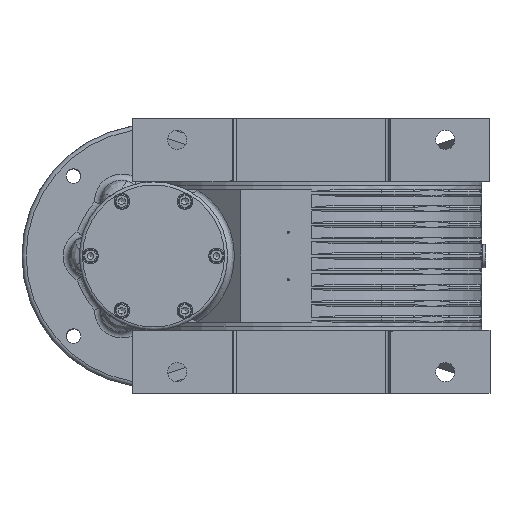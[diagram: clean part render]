
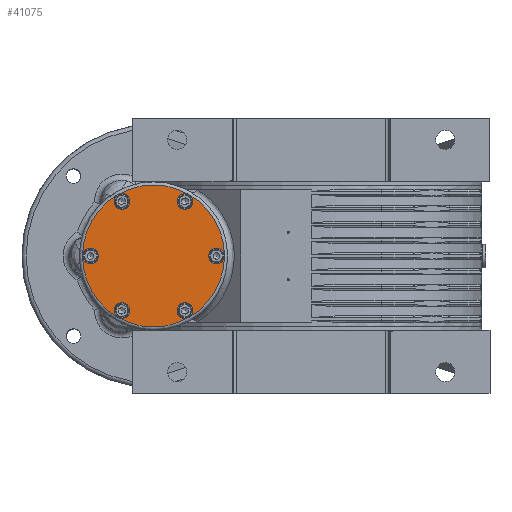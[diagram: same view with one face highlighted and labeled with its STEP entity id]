
A CAD part, left-side view. The second image highlights one B-rep face of the part: STEP entity #41075.
In plain terms, the highlighted planar face has unit normal (-1, 0, 0).
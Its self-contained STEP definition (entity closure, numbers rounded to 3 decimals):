
#40978=CARTESIAN_POINT('',(0.0,67.5,0.0));
#40979=VERTEX_POINT('',#40978);
#40980=CARTESIAN_POINT('',(0.0,0.0,0.0));
#40981=DIRECTION('',(1.0,0.0,0.0));
#40982=DIRECTION('',(0.0,-1.0,0.0));
#40983=AXIS2_PLACEMENT_3D('',#40980,#40981,#40982);
#40984=CIRCLE('',#40983,67.5);
#40985=EDGE_CURVE('',#40979,#40979,#40984,.T.);
#41001=CARTESIAN_POINT('',(0.0,35.25,0.0));
#41002=DIRECTION('',(-1.0,0.0,0.0));
#41003=DIRECTION('',(0.0,0.0,1.0));
#41004=AXIS2_PLACEMENT_3D('',#41001,#41002,#41003);
#41005=PLANE('',#41004);
#41006=ORIENTED_EDGE('',*,*,#40985,.F.);
#41007=EDGE_LOOP('',(#41006));
#41008=FACE_OUTER_BOUND('',#41007,.T.);
#41009=CARTESIAN_POINT('',(0.0,60.0,4.25));
#41010=VERTEX_POINT('',#41009);
#41011=CARTESIAN_POINT('',(0.0,60.0,0.0));
#41012=DIRECTION('',(1.0,0.0,0.0));
#41013=DIRECTION('',(0.0,0.0,-1.0));
#41014=AXIS2_PLACEMENT_3D('',#41011,#41012,#41013);
#41015=CIRCLE('',#41014,4.25);
#41016=EDGE_CURVE('',#41010,#41010,#41015,.T.);
#41017=ORIENTED_EDGE('',*,*,#41016,.T.);
#41018=EDGE_LOOP('',(#41017));
#41019=FACE_BOUND('',#41018,.T.);
#41020=CARTESIAN_POINT('',(0.,26.319,54.087));
#41021=VERTEX_POINT('',#41020);
#41022=CARTESIAN_POINT('',(0.,30.,51.962));
#41023=DIRECTION('',(1.0,0.,0.));
#41024=DIRECTION('',(0.,0.866,-0.5));
#41025=AXIS2_PLACEMENT_3D('',#41022,#41023,#41024);
#41026=CIRCLE('',#41025,4.25);
#41027=EDGE_CURVE('',#41021,#41021,#41026,.T.);
#41028=ORIENTED_EDGE('',*,*,#41027,.T.);
#41029=EDGE_LOOP('',(#41028));
#41030=FACE_BOUND('',#41029,.T.);
#41031=CARTESIAN_POINT('',(0.,-33.681,49.837));
#41032=VERTEX_POINT('',#41031);
#41033=CARTESIAN_POINT('',(0.,-30.,51.962));
#41034=DIRECTION('',(1.0,0.,0.));
#41035=DIRECTION('',(0.,0.866,0.5));
#41036=AXIS2_PLACEMENT_3D('',#41033,#41034,#41035);
#41037=CIRCLE('',#41036,4.25);
#41038=EDGE_CURVE('',#41032,#41032,#41037,.T.);
#41039=ORIENTED_EDGE('',*,*,#41038,.T.);
#41040=EDGE_LOOP('',(#41039));
#41041=FACE_BOUND('',#41040,.T.);
#41042=CARTESIAN_POINT('',(0.,-60.,-4.25));
#41043=VERTEX_POINT('',#41042);
#41044=CARTESIAN_POINT('',(0.,-60.,0.));
#41045=DIRECTION('',(1.0,0.0,0.0));
#41046=DIRECTION('',(0.0,0.0,1.0));
#41047=AXIS2_PLACEMENT_3D('',#41044,#41045,#41046);
#41048=CIRCLE('',#41047,4.25);
#41049=EDGE_CURVE('',#41043,#41043,#41048,.T.);
#41050=ORIENTED_EDGE('',*,*,#41049,.T.);
#41051=EDGE_LOOP('',(#41050));
#41052=FACE_BOUND('',#41051,.T.);
#41053=CARTESIAN_POINT('',(0.,-26.319,-54.087));
#41054=VERTEX_POINT('',#41053);
#41055=CARTESIAN_POINT('',(0.,-30.,-51.962));
#41056=DIRECTION('',(1.0,0.,0.));
#41057=DIRECTION('',(0.,-0.866,0.5));
#41058=AXIS2_PLACEMENT_3D('',#41055,#41056,#41057);
#41059=CIRCLE('',#41058,4.25);
#41060=EDGE_CURVE('',#41054,#41054,#41059,.T.);
#41061=ORIENTED_EDGE('',*,*,#41060,.T.);
#41062=EDGE_LOOP('',(#41061));
#41063=FACE_BOUND('',#41062,.T.);
#41064=CARTESIAN_POINT('',(0.,33.681,-49.837));
#41065=VERTEX_POINT('',#41064);
#41066=CARTESIAN_POINT('',(0.,30.,-51.962));
#41067=DIRECTION('',(1.0,0.,0.));
#41068=DIRECTION('',(0.,-0.866,-0.5));
#41069=AXIS2_PLACEMENT_3D('',#41066,#41067,#41068);
#41070=CIRCLE('',#41069,4.25);
#41071=EDGE_CURVE('',#41065,#41065,#41070,.T.);
#41072=ORIENTED_EDGE('',*,*,#41071,.T.);
#41073=EDGE_LOOP('',(#41072));
#41074=FACE_BOUND('',#41073,.T.);
#41075=ADVANCED_FACE('',(#41008,#41019,#41030,#41041,#41052,#41063,#41074),#41005,.T.);
